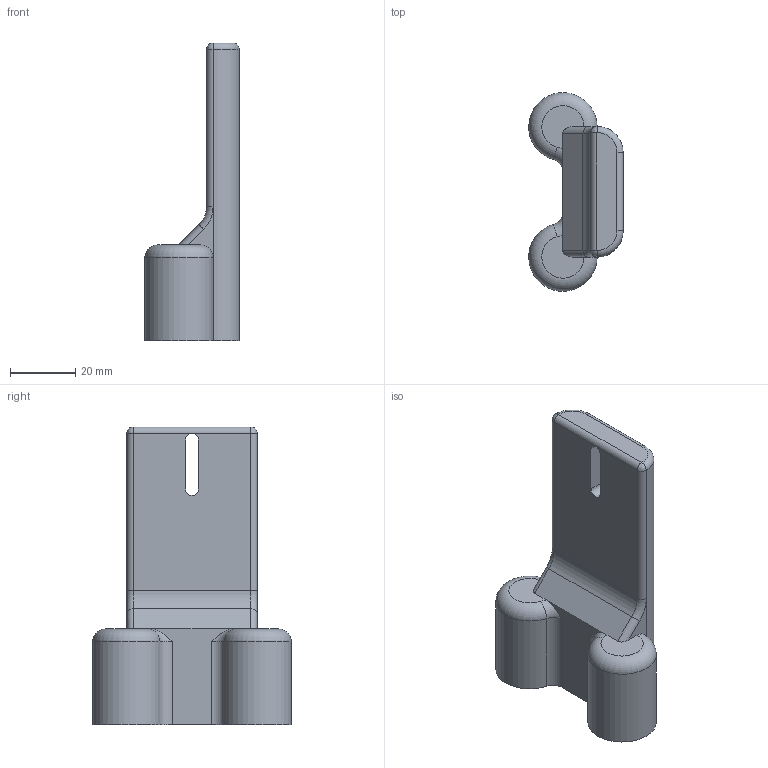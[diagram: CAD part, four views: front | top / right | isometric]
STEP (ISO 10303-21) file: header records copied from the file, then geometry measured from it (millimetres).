
FILE_DESCRIPTION(/* description */ (''),/* implementation_level */ '2;1');
FILE_NAME(/* name */ 'MSQ_Spray Tip Holder.step',/* time_stamp */ '2026-06-22T18:48:30-07:00',/* author */ (''),/* organization */ (''),/* preprocessor_version */ 'ST-DEVELOPER v20.1',/* originating_system */ 'Autodesk Translation Framework v15.8.0.0',/* authorisation */ '');
FILE_SCHEMA (('AUTOMOTIVE_DESIGN { 1 0 10303 214 3 1 1 }'));
Length unit declared in the file: millimetre
Products named in the file (2): Spray Tip Holder; MSQ_Needle_Holder
Assembly tree (1 placements, depth 2):
  Spray Tip Holder
    MSQ_Needle_Holder
Bounding box: 28.97 x 60.99 x 91.5 mm (x, y, z)
Volume: 53696.8 mm3; surface area: 14718.5 mm2
Topology: 1 solids, 1 shells, 43 faces, 103 edges, 62 vertices
Faces by surface type: cylinder 19, plane 12, torus 8, bspline 2, cone 2
Full cylindrical faces by diameter (mm): 13 x2
Entity records: 1376 total; most frequent: CARTESIAN_POINT 244, DIRECTION 241, ORIENTED_EDGE 202, EDGE_CURVE 101, AXIS2_PLACEMENT_3D 97, VERTEX_POINT 62, CIRCLE 50, LINE 47
